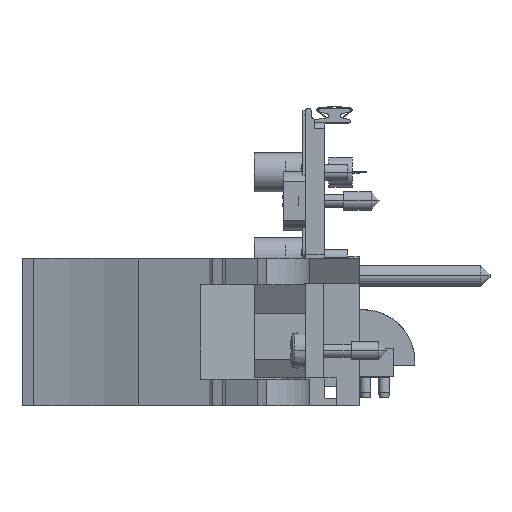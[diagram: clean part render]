
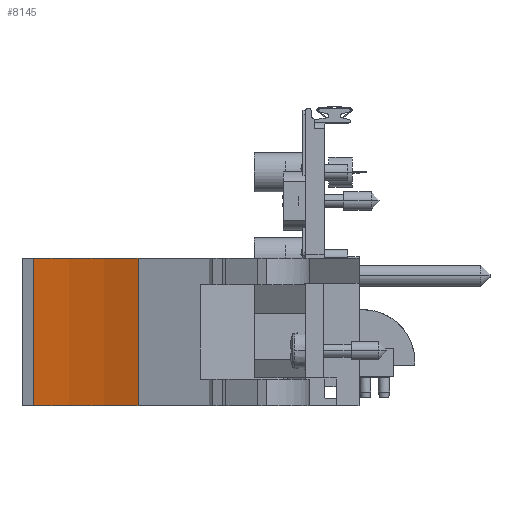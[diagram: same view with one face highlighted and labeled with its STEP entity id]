
A CAD part, front view. The second image highlights one B-rep face of the part: STEP entity #8145.
In plain terms, the highlighted cylindrical face has radius 51.46 mm (diameter 102.919 mm), a partial arc.
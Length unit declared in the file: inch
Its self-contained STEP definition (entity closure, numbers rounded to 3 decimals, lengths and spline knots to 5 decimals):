
#319=DIRECTION('',(0.,0.,1.));
#320=VECTOR('',#319,0.788);
#321=CARTESIAN_POINT('',(-1.09503,-4.12655,-0.093));
#322=LINE('',#321,#320);
#380=CARTESIAN_POINT('',(-1.97633,-5.95079,-0.093));
#381=DIRECTION('',(0.,0.,1.));
#382=DIRECTION('',(0.435,0.9,0.));
#383=AXIS2_PLACEMENT_3D('',#380,#381,#382);
#771=CARTESIAN_POINT('',(-1.97633,-5.95079,0.695));
#772=DIRECTION('',(0.,0.,1.));
#773=DIRECTION('',(0.435,0.9,0.));
#774=AXIS2_PLACEMENT_3D('',#771,#772,#773);
#1087=DIRECTION('',(0.,0.,1.));
#1088=VECTOR('',#1087,0.788);
#1089=CARTESIAN_POINT('',(-1.653,-3.95079,-0.093));
#1090=LINE('',#1089,#1088);
#6327=CARTESIAN_POINT('',(-1.09503,-4.12655,-0.093));
#6328=CARTESIAN_POINT('',(-1.653,-3.95079,-0.093));
#6329=VERTEX_POINT('',#6327);
#6330=VERTEX_POINT('',#6328);
#6331=CARTESIAN_POINT('',(-1.09503,-4.12655,0.695));
#6332=CARTESIAN_POINT('',(-1.653,-3.95079,0.695));
#6333=VERTEX_POINT('',#6331);
#6334=VERTEX_POINT('',#6332);
#8131=CARTESIAN_POINT('',(-1.97633,-5.95079,0.695));
#8132=DIRECTION('',(0.,0.,1.));
#8133=DIRECTION('',(0.,1.,0.));
#8134=AXIS2_PLACEMENT_3D('',#8131,#8132,#8133);
#8135=CYLINDRICAL_SURFACE('',#8134,2.02597);
#8137=ORIENTED_EDGE('',*,*,#8136,.T.);
#8139=ORIENTED_EDGE('',*,*,#8138,.T.);
#8141=ORIENTED_EDGE('',*,*,#8140,.F.);
#8142=ORIENTED_EDGE('',*,*,#8114,.F.);
#8143=EDGE_LOOP('',(#8137,#8139,#8141,#8142));
#8144=FACE_OUTER_BOUND('',#8143,.F.);
#8145=ADVANCED_FACE('',(#8144),#8135,.F.);
#384=CIRCLE('',#383,2.02597);
#775=CIRCLE('',#774,2.02597);
#8114=EDGE_CURVE('',#6329,#6333,#322,.T.);
#8136=EDGE_CURVE('',#6329,#6330,#384,.T.);
#8138=EDGE_CURVE('',#6330,#6334,#1090,.T.);
#8140=EDGE_CURVE('',#6333,#6334,#775,.T.);
